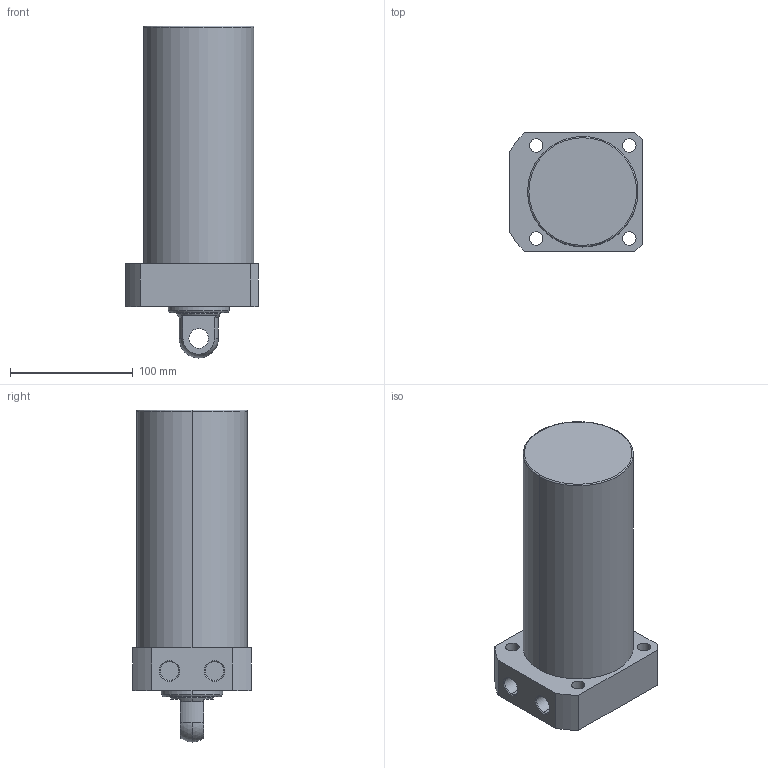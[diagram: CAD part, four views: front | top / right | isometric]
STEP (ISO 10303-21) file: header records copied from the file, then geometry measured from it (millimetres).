
FILE_DESCRIPTION (( 'STEP AP203' ), '1' );
FILE_NAME ('CLLR-090CP-150.STEP', '2019-12-18T07:00:13', ( '' ), ( '' ), 'SwSTEP 2.0', 'SolidWorks 2015', '' );
FILE_SCHEMA (( 'CONFIG_CONTROL_DESIGN' ));
Length unit declared in the file: millimetre
Products named in the file (1): CLLR-090CP-150
Bounding box: 108 x 97 x 271 mm (x, y, z)
Volume: 1598345 mm3; surface area: 98917.9 mm2
Topology: 1 solids, 1 shells, 59 faces, 139 edges, 89 vertices
Faces by surface type: cylinder 29, plane 18, cone 8, sphere 2, torus 2
Entity records: 1822 total; most frequent: DIRECTION 331, CARTESIAN_POINT 300, ORIENTED_EDGE 278, EDGE_CURVE 139, AXIS2_PLACEMENT_3D 136, VERTEX_POINT 89, EDGE_LOOP 76, CIRCLE 76
